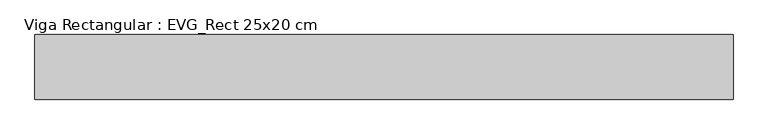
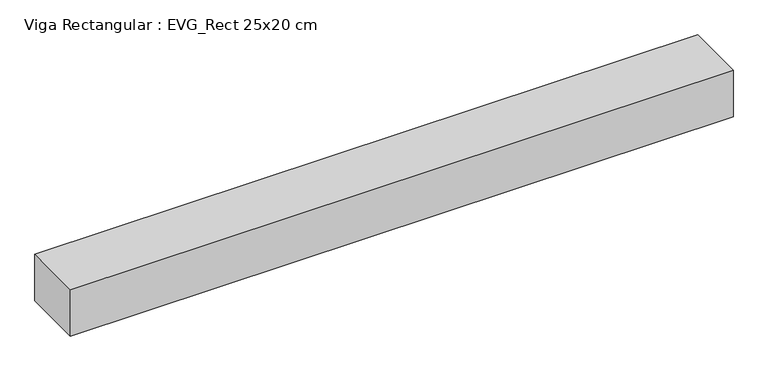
"""IFC4 building model written with IfcOpenShell, lengths in millimetres: beam geometry, Viga Rectangular : EVG_Rect 25x20 cm."""

from ifc_helpers import new_model, si_unit, frame, origin, place, context, project, spatial, polyline, outline, extrude, source, transform, mapped, element, save


def viga_rectangular_evg_rect_25x20_cm_bb1ad2f1(model_context):
    return source(origin(), model_context, "Body", "SweptSolid", [
        extrude(outline(polyline([(1375.0, 125.0), (1375.0, -125.0), (-1325.0, -125.0), (-1325.0, 125.0), (1375.0, 125.0)])), frame((0.0, 0.0, -200.0), z_axis=(0.0, 0.0, 1.0), x_axis=(1.0, 0.0, 0.0)), (0.0, 0.0, 1.0), 200.0),
    ])


if __name__ == "__main__":
    model = new_model("IFC4")
    model_context = context("Model", 3, world=origin())
    ifc_project = project(units=[si_unit("LENGTHUNIT", "METRE", prefix="MILLI")], contexts=[model_context])
    site = spatial("IfcSite", under=ifc_project)
    building = spatial("IfcBuilding", under=site)
    placement = place(None, origin())
    viga_rectangular_evg_rect_25x20_cm_shape = viga_rectangular_evg_rect_25x20_cm_bb1ad2f1(model_context)
    element("IfcBeam", 1, ObjectType="Viga Rectangular : EVG_Rect 25x20 cm", at=placement, inside=building, context=model_context, shape_type="MappedRepresentation", body=[
        mapped(viga_rectangular_evg_rect_25x20_cm_shape, transform((0.0, 0.0, 0.0), x_axis=(1.0, 0.0, 0.0), y_axis=(0.0, 1.0, 0.0), z_axis=(0.0, 0.0, 1.0))),
    ])
    save(model, "model.ifc")
